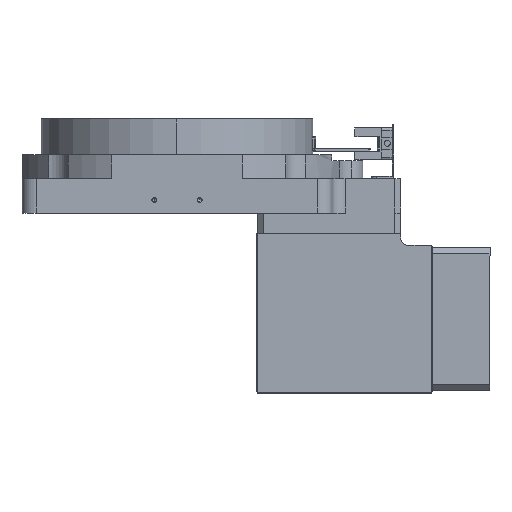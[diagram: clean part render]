
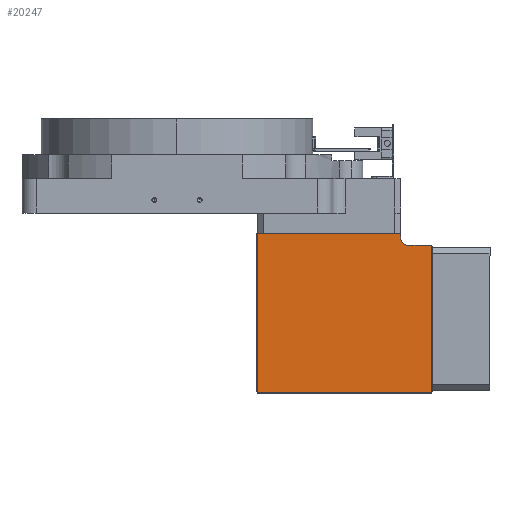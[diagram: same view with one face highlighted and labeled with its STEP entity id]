
A CAD part, left-side view. The second image highlights one B-rep face of the part: STEP entity #20247.
In plain terms, the highlighted planar face has unit normal (-1, 0, 0).
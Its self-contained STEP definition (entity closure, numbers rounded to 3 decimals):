
#138 = DIRECTION ( 'NONE',  ( 0., 1., 0. ) ) ;
#395 = VERTEX_POINT ( 'NONE', #51423 ) ;
#2866 = VECTOR ( 'NONE', #20862, 1000. ) ;
#3224 = LINE ( 'NONE', #50619, #31960 ) ;
#3257 = EDGE_CURVE ( 'NONE', #4996, #26465, #40579, .T. ) ;
#4043 = CARTESIAN_POINT ( 'NONE',  ( -39.411, -38.343, -72.95 ) ) ;
#4808 = ORIENTED_EDGE ( 'NONE', *, *, #46891, .T. ) ;
#4996 = VERTEX_POINT ( 'NONE', #10053 ) ;
#5006 = FACE_OUTER_BOUND ( 'NONE', #46022, .T. ) ;
#5129 = CARTESIAN_POINT ( 'NONE',  ( -39.411, -103.343, -6.25 ) ) ;
#5174 = CARTESIAN_POINT ( 'NONE',  ( -39.411, -98.343, -1.25 ) ) ;
#6213 = LINE ( 'NONE', #5174, #21729 ) ;
#6722 = ORIENTED_EDGE ( 'NONE', *, *, #40504, .T. ) ;
#9769 = VECTOR ( 'NONE', #138, 1000. ) ;
#10053 = CARTESIAN_POINT ( 'NONE',  ( -39.411, -97.843, -6.25 ) ) ;
#10813 = EDGE_CURVE ( 'NONE', #31589, #49799, #48727, .T. ) ;
#12115 = VERTEX_POINT ( 'NONE', #4043 ) ;
#12317 = DIRECTION ( 'NONE',  ( 0., 0., 1. ) ) ;
#13227 = DIRECTION ( 'NONE',  ( 0., 1., 0. ) ) ;
#13335 = CARTESIAN_POINT ( 'NONE',  ( -39.411, -111.343, -11.75 ) ) ;
#13575 = DIRECTION ( 'NONE',  ( 0., 0., 1. ) ) ;
#16762 = CARTESIAN_POINT ( 'NONE',  ( -39.411, -24.843, 19.207 ) ) ;
#18002 = CARTESIAN_POINT ( 'NONE',  ( -39.411, -111.343, -11.25 ) ) ;
#20247 = ADVANCED_FACE ( 'NONE', ( #5006 ), #32377, .F. ) ;
#20364 = LINE ( 'NONE', #24779, #2866 ) ;
#20427 = CIRCLE ( 'NONE', #34598, 3. ) ;
#20429 = ORIENTED_EDGE ( 'NONE', *, *, #21074, .T. ) ;
#20862 = DIRECTION ( 'NONE',  ( 0., 0.707, 0.707 ) ) ;
#20891 = ORIENTED_EDGE ( 'NONE', *, *, #22618, .T. ) ;
#21074 = EDGE_CURVE ( 'NONE', #26465, #12115, #3224, .T. ) ;
#21081 = CARTESIAN_POINT ( 'NONE',  ( -39.411, -98.343, -6.75 ) ) ;
#21642 = CARTESIAN_POINT ( 'NONE',  ( -39.411, -101.343, -8.25 ) ) ;
#21706 = EDGE_CURVE ( 'NONE', #45610, #4996, #20364, .T. ) ;
#21729 = VECTOR ( 'NONE', #48673, 1000. ) ;
#22618 = EDGE_CURVE ( 'NONE', #395, #46632, #20427, .T. ) ;
#23601 = AXIS2_PLACEMENT_3D ( 'NONE', #16762, #44346, #40963 ) ;
#23758 = ORIENTED_EDGE ( 'NONE', *, *, #3257, .T. ) ;
#24779 = CARTESIAN_POINT ( 'NONE',  ( -39.411, -97.843, -6.25 ) ) ;
#26465 = VERTEX_POINT ( 'NONE', #31361 ) ;
#27100 = CARTESIAN_POINT ( 'NONE',  ( -39.411, -111.343, -72.95 ) ) ;
#27180 = EDGE_CURVE ( 'NONE', #12115, #31589, #27354, .T. ) ;
#27354 = LINE ( 'NONE', #27100, #36286 ) ;
#30556 = VECTOR ( 'NONE', #12317, 1000. ) ;
#31361 = CARTESIAN_POINT ( 'NONE',  ( -39.411, -38.343, -6.25 ) ) ;
#31467 = ORIENTED_EDGE ( 'NONE', *, *, #27180, .T. ) ;
#31589 = VERTEX_POINT ( 'NONE', #37416 ) ;
#31960 = VECTOR ( 'NONE', #41861, 1000. ) ;
#32377 = PLANE ( 'NONE',  #23601 ) ;
#34598 = AXIS2_PLACEMENT_3D ( 'NONE', #21642, #41425, #13575 ) ;
#34995 = ORIENTED_EDGE ( 'NONE', *, *, #10813, .T. ) ;
#35845 = CARTESIAN_POINT ( 'NONE',  ( -39.411, -111.843, -11.25 ) ) ;
#36286 = VECTOR ( 'NONE', #43211, 1000. ) ;
#37416 = CARTESIAN_POINT ( 'NONE',  ( -39.411, -111.343, -72.95 ) ) ;
#39996 = LINE ( 'NONE', #35845, #9769 ) ;
#40504 = EDGE_CURVE ( 'NONE', #49799, #395, #39996, .T. ) ;
#40579 = LINE ( 'NONE', #5129, #40944 ) ;
#40944 = VECTOR ( 'NONE', #13227, 1000. ) ;
#40963 = DIRECTION ( 'NONE',  ( 0., 1., 0. ) ) ;
#41425 = DIRECTION ( 'NONE',  ( 1., 0., 0. ) ) ;
#41861 = DIRECTION ( 'NONE',  ( 0., 0., -1. ) ) ;
#43211 = DIRECTION ( 'NONE',  ( 0., -1., 0. ) ) ;
#44346 = DIRECTION ( 'NONE',  ( 1., 0., 0. ) ) ;
#45610 = VERTEX_POINT ( 'NONE', #21081 ) ;
#46022 = EDGE_LOOP ( 'NONE', ( #31467, #34995, #6722, #20891, #4808, #50885, #23758, #20429 ) ) ;
#46628 = CARTESIAN_POINT ( 'NONE',  ( -39.411, -98.343, -8.25 ) ) ;
#46632 = VERTEX_POINT ( 'NONE', #46628 ) ;
#46891 = EDGE_CURVE ( 'NONE', #46632, #45610, #6213, .T. ) ;
#48673 = DIRECTION ( 'NONE',  ( 0., 0., 1. ) ) ;
#48727 = LINE ( 'NONE', #13335, #30556 ) ;
#49799 = VERTEX_POINT ( 'NONE', #18002 ) ;
#50619 = CARTESIAN_POINT ( 'NONE',  ( -39.411, -38.343, 19.207 ) ) ;
#50885 = ORIENTED_EDGE ( 'NONE', *, *, #21706, .T. ) ;
#51423 = CARTESIAN_POINT ( 'NONE',  ( -39.411, -101.343, -11.25 ) ) ;
